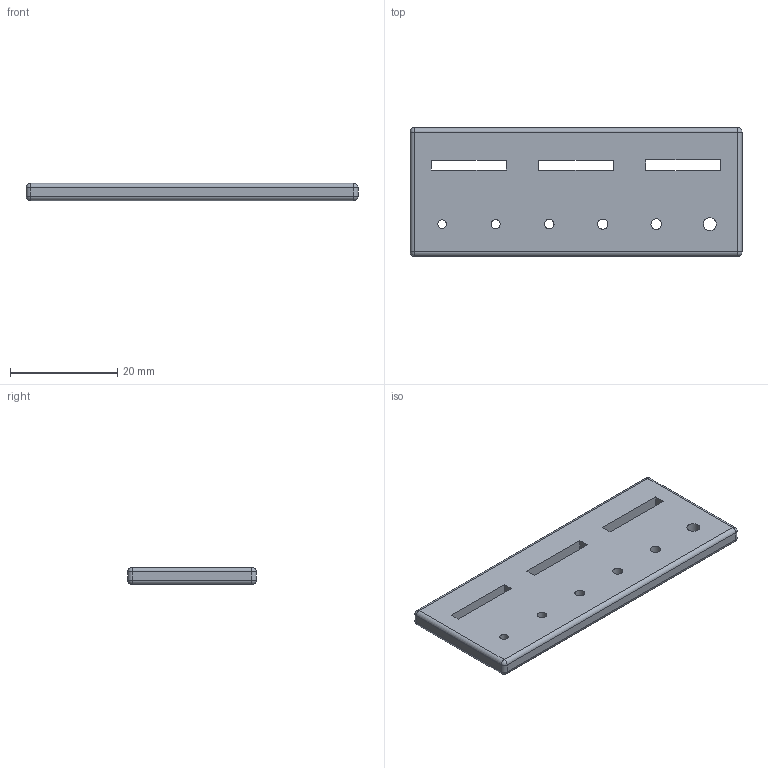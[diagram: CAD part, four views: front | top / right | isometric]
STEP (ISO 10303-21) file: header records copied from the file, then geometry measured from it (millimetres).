
FILE_DESCRIPTION(('Open CASCADE Model'),'2;1');
FILE_NAME('Open CASCADE Shape Model','2026-10-20T14:20:54',('Author'),( 'Open CASCADE'),'Open CASCADE STEP processor 7.8','Open CASCADE 7.8' ,'Unknown');
FILE_SCHEMA(('AUTOMOTIVE_DESIGN { 1 0 10303 214 1 1 1 1 }'));
Length unit declared in the file: millimetre
Products named in the file (1): Open CASCADE STEP translator 7.8 15
Bounding box: 62 x 24 x 3.2 mm (x, y, z)
Volume: 4402.5 mm3; surface area: 3628.8 mm2
Topology: 1 solids, 1 shells, 44 faces, 110 edges, 60 vertices
Faces by surface type: plane 18, cylinder 18, sphere 8
Full cylindrical faces by diameter (mm): 1.6 x1, 1.7 x1, 1.8 x1, 1.9 x1, 2 x1, 2.4 x1
Entity records: 2558 total; most frequent: CARTESIAN_POINT 563, DIRECTION 340, ORIENTED_EDGE 204, PCURVE 204, DEFINITIONAL_REPRESENTATION 204, LINE 178, VECTOR 178, EDGE_CURVE 102
